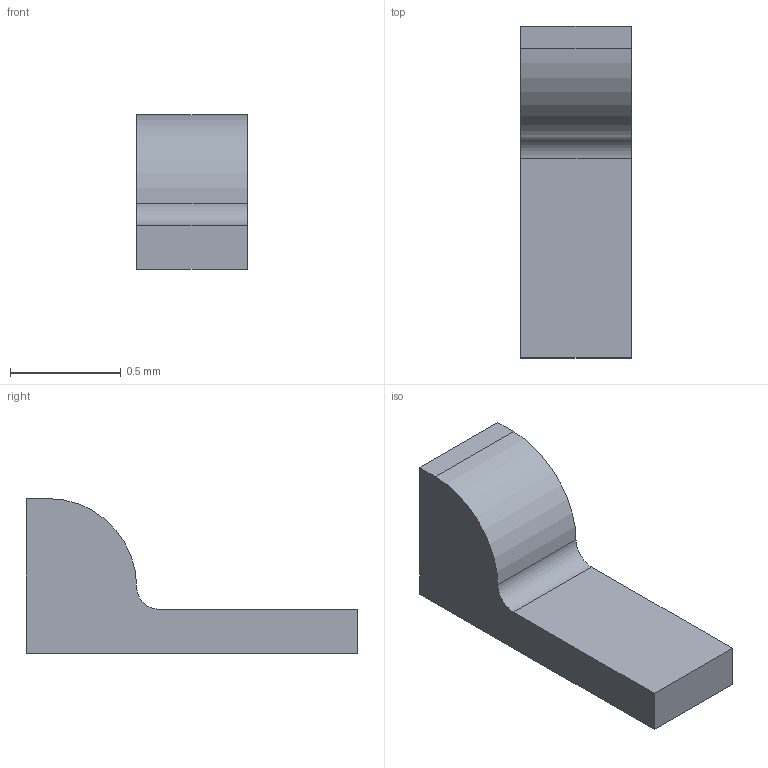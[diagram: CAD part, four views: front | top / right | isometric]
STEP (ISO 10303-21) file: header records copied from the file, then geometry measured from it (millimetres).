
FILE_DESCRIPTION(/* description */ ('STEP AP242 Edition 2','CAx-IF Rec.Pracs.---Representation and Presentation of Product Manufacturing Information (PMI)---4.0---2014-10-13','CAx-IF Rec.Pracs.---3D Tessellated Geometry---0.4---2014-09-14','2;1','CAx-IF Rec.Pracs.---User Defined Attributes---1.5---2016-08-15'),/* implementation_level */ '2;1');
FILE_NAME(/* name */ 'Drone Layout - Surface 232',/* time_stamp */ '2026-10-04T22:22:53Z',/* author */ (''),/* organization */ (''),/* preprocessor_version */ 'ST-DEVELOPER v20',/* originating_system */ 'ONSHAPE BY PTC INC, 1.221',/* authorisation */ ' ');
FILE_SCHEMA (('AP242_MANAGED_MODEL_BASED_3D_ENGINEERING_MIM_LF { 1 0 10303 442 3 1 4 }'));
Length unit declared in the file: metre
Products named in the file (1): Chip:1__pins (10) (1)
Bounding box: 0.5 x 1.5 x 0.7 mm (x, y, z)
Volume: 0.3 mm3; surface area: 3.1 mm2
Topology: 1 solids, 1 shells, 9 faces, 21 edges, 14 vertices
Faces by surface type: plane 7, cylinder 2
Entity records: 272 total; most frequent: DIRECTION 45, CARTESIAN_POINT 45, ORIENTED_EDGE 42, EDGE_CURVE 21, LINE 17, VECTOR 17, VERTEX_POINT 14, AXIS2_PLACEMENT_3D 14
